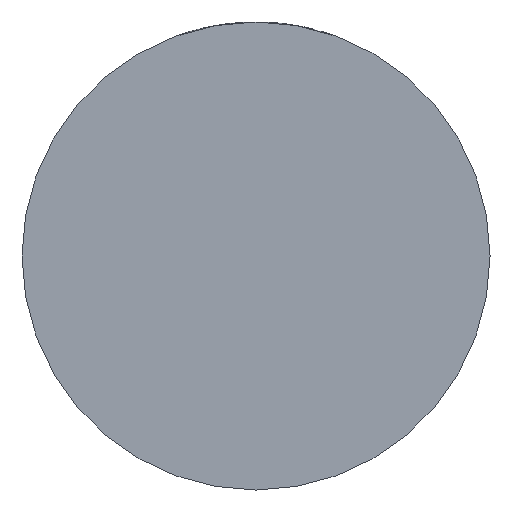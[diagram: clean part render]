
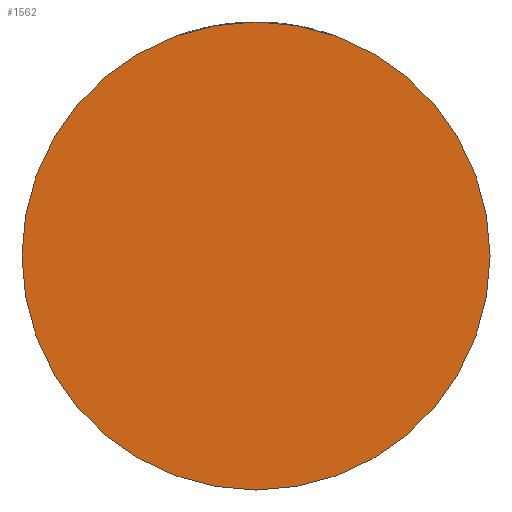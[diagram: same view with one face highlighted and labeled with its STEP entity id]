
A CAD part, front view. The second image highlights one B-rep face of the part: STEP entity #1562.
In plain terms, the highlighted planar face has unit normal (0, -1, 0).
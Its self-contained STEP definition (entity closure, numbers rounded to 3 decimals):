
#9 = AXIS2_PLACEMENT_3D ( 'NONE', #2538, #1131, #3494 ) ;
#33 = CARTESIAN_POINT ( 'NONE',  ( -29.5, -25., 0. ) ) ;
#129 = VERTEX_POINT ( 'NONE', #33 ) ;
#207 = DIRECTION ( 'NONE',  ( 0., -1., 0. ) ) ;
#509 = AXIS2_PLACEMENT_3D ( 'NONE', #2024, #1384, #3738 ) ;
#654 = ORIENTED_EDGE ( 'NONE', *, *, #1907, .T. ) ;
#796 = CARTESIAN_POINT ( 'NONE',  ( 29.5, -25., 0. ) ) ;
#1131 = DIRECTION ( 'NONE',  ( 0., -1., 0. ) ) ;
#1307 = VERTEX_POINT ( 'NONE', #796 ) ;
#1384 = DIRECTION ( 'NONE',  ( 0., -1., 0. ) ) ;
#1562 = ADVANCED_FACE ( 'NONE', ( #2802 ), #3870, .T. ) ;
#1907 = EDGE_CURVE ( 'NONE', #1307, #129, #1995, .T. ) ;
#1995 = CIRCLE ( 'NONE', #2566, 29.5 ) ;
#2024 = CARTESIAN_POINT ( 'NONE',  ( 0., -25., 0. ) ) ;
#2481 = EDGE_CURVE ( 'NONE', #129, #1307, #4053, .T. ) ;
#2537 = EDGE_LOOP ( 'NONE', ( #4112, #654 ) ) ;
#2538 = CARTESIAN_POINT ( 'NONE',  ( 0., -25., 0. ) ) ;
#2566 = AXIS2_PLACEMENT_3D ( 'NONE', #3568, #207, #2916 ) ;
#2802 = FACE_OUTER_BOUND ( 'NONE', #2537, .T. ) ;
#2916 = DIRECTION ( 'NONE',  ( 1., 0., 0. ) ) ;
#3494 = DIRECTION ( 'NONE',  ( 1., 0., 0. ) ) ;
#3568 = CARTESIAN_POINT ( 'NONE',  ( 0., -25., 0. ) ) ;
#3738 = DIRECTION ( 'NONE',  ( 1., 0., 0. ) ) ;
#3870 = PLANE ( 'NONE',  #9 ) ;
#4053 = CIRCLE ( 'NONE', #509, 29.5 ) ;
#4112 = ORIENTED_EDGE ( 'NONE', *, *, #2481, .T. ) ;
